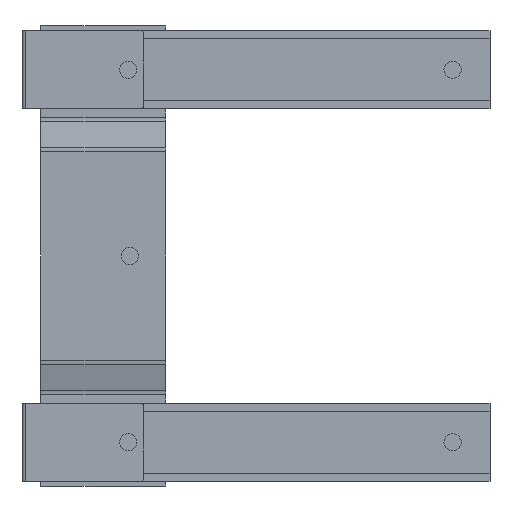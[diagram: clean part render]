
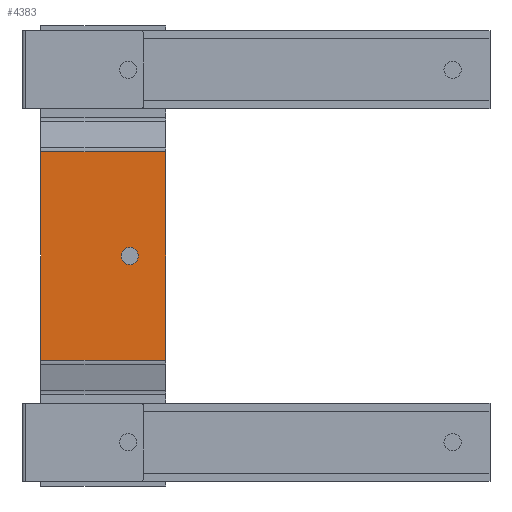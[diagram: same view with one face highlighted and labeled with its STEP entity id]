
A CAD part, left-side view. The second image highlights one B-rep face of the part: STEP entity #4383.
In plain terms, the highlighted planar face has unit normal (-1, 0, 0).
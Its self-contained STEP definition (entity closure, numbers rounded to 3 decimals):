
#292 = VERTEX_POINT ( 'NONE', #1205 ) ;
#297 = EDGE_CURVE ( 'NONE', #292, #4571, #1196, .T. ) ;
#1192 = DIRECTION ( 'NONE',  ( 1., 0., 0. ) ) ;
#1193 = CARTESIAN_POINT ( 'NONE',  ( 320., 9., 144.5 ) ) ;
#1194 = AXIS2_PLACEMENT_3D ( 'NONE', #1193, #1192, #1263 ) ;
#1196 = CIRCLE ( 'NONE', #1194, 5.5 ) ;
#1205 = CARTESIAN_POINT ( 'NONE',  ( 320., 9., 150. ) ) ;
#1263 = DIRECTION ( 'NONE',  ( 0., 0., -1. ) ) ;
#3044 = DIRECTION ( 'NONE',  ( 0., 0., 1. ) ) ;
#3045 = DIRECTION ( 'NONE',  ( -1., 0., 0. ) ) ;
#3046 = CARTESIAN_POINT ( 'NONE',  ( 320., -14., 76.365 ) ) ;
#3047 = AXIS2_PLACEMENT_3D ( 'NONE', #3046, #3045, #3044 ) ;
#3048 = PLANE ( 'NONE',  #3047 ) ;
#3049 = FACE_OUTER_BOUND ( 'NONE', #4374, .T. ) ;
#3050 = FACE_BOUND ( 'NONE', #4384, .T. ) ;
#3061 = DIRECTION ( 'NONE',  ( 0., 0., -1. ) ) ;
#3062 = DIRECTION ( 'NONE',  ( 1., 0., 0. ) ) ;
#3063 = CARTESIAN_POINT ( 'NONE',  ( 320., 9., 144.5 ) ) ;
#3064 = AXIS2_PLACEMENT_3D ( 'NONE', #3063, #3062, #3061 ) ;
#3065 = CIRCLE ( 'NONE', #3064, 5.5 ) ;
#3071 = DIRECTION ( 'NONE',  ( 0., 0., 1. ) ) ;
#3072 = VECTOR ( 'NONE', #3071, 1000. ) ;
#3073 = CARTESIAN_POINT ( 'NONE',  ( 320., 66., 76.365 ) ) ;
#3074 = LINE ( 'NONE', #3073, #3072 ) ;
#3075 = CARTESIAN_POINT ( 'NONE',  ( 320., 66., 77.635 ) ) ;
#3076 = DIRECTION ( 'NONE',  ( 0., 0., 1. ) ) ;
#3077 = VECTOR ( 'NONE', #3076, 1000. ) ;
#3078 = CARTESIAN_POINT ( 'NONE',  ( 320., -14., 76.365 ) ) ;
#3079 = LINE ( 'NONE', #3078, #3077 ) ;
#3080 = CARTESIAN_POINT ( 'NONE',  ( 320., -14., 77.635 ) ) ;
#3081 = DIRECTION ( 'NONE',  ( 0., -1., 0. ) ) ;
#3082 = VECTOR ( 'NONE', #3081, 1000. ) ;
#3083 = CARTESIAN_POINT ( 'NONE',  ( 320., -14., 77.635 ) ) ;
#3084 = LINE ( 'NONE', #3083, #3082 ) ;
#3085 = CARTESIAN_POINT ( 'NONE',  ( 320., 66., 211.365 ) ) ;
#3086 = DIRECTION ( 'NONE',  ( 0., 1., 0. ) ) ;
#3087 = VECTOR ( 'NONE', #3086, 1000. ) ;
#3088 = CARTESIAN_POINT ( 'NONE',  ( 320., -14., 211.365 ) ) ;
#3089 = LINE ( 'NONE', #3088, #3087 ) ;
#3096 = CARTESIAN_POINT ( 'NONE',  ( 320., -14., 211.365 ) ) ;
#3694 = CARTESIAN_POINT ( 'NONE',  ( 320., 9., 139. ) ) ;
#4374 = EDGE_LOOP ( 'NONE', ( #4403, #4399, #4400, #4391 ) ) ;
#4376 = ORIENTED_EDGE ( 'NONE', *, *, #297, .T. ) ;
#4377 = EDGE_CURVE ( 'NONE', #4571, #292, #3065, .T. ) ;
#4382 = ORIENTED_EDGE ( 'NONE', *, *, #4377, .T. ) ;
#4383 = ADVANCED_FACE ( 'NONE', ( #3050, #3049 ), #3048, .T. ) ;
#4384 = EDGE_LOOP ( 'NONE', ( #4382, #4376 ) ) ;
#4391 = ORIENTED_EDGE ( 'NONE', *, *, #4396, .T. ) ;
#4392 = VERTEX_POINT ( 'NONE', #3096 ) ;
#4396 = EDGE_CURVE ( 'NONE', #4392, #4397, #3089, .T. ) ;
#4397 = VERTEX_POINT ( 'NONE', #3085 ) ;
#4398 = EDGE_CURVE ( 'NONE', #4404, #4401, #3084, .T. ) ;
#4399 = ORIENTED_EDGE ( 'NONE', *, *, #4398, .T. ) ;
#4400 = ORIENTED_EDGE ( 'NONE', *, *, #4402, .T. ) ;
#4401 = VERTEX_POINT ( 'NONE', #3080 ) ;
#4402 = EDGE_CURVE ( 'NONE', #4401, #4392, #3079, .T. ) ;
#4403 = ORIENTED_EDGE ( 'NONE', *, *, #4405, .F. ) ;
#4404 = VERTEX_POINT ( 'NONE', #3075 ) ;
#4405 = EDGE_CURVE ( 'NONE', #4404, #4397, #3074, .T. ) ;
#4571 = VERTEX_POINT ( 'NONE', #3694 ) ;
